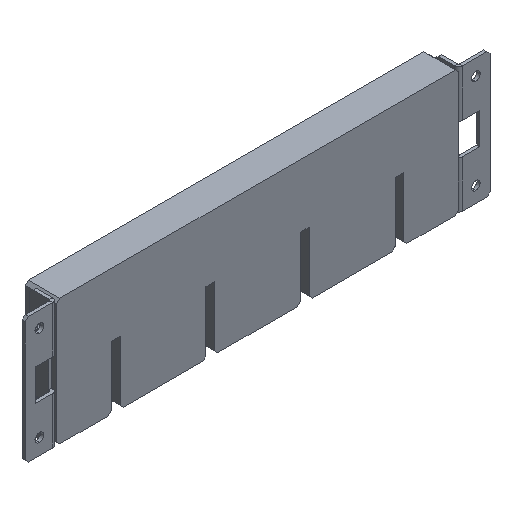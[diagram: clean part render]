
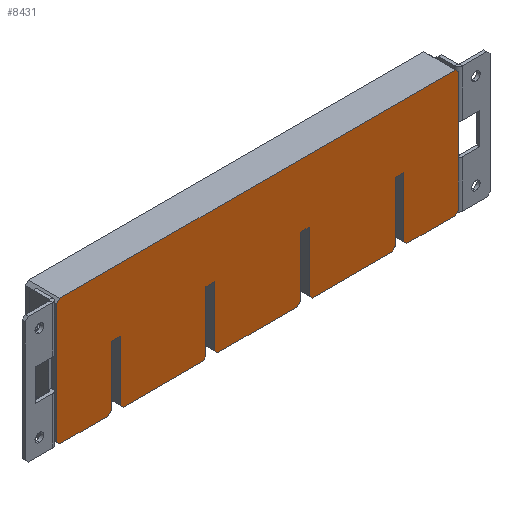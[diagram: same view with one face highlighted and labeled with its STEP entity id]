
A CAD part, isometric view. The second image highlights one B-rep face of the part: STEP entity #8431.
In plain terms, the highlighted planar face has unit normal (0, -1, 0) as drawn and (0, 0, -1) by its records, which use the part's own axes.
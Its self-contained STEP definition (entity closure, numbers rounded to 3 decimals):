
#5896=CARTESIAN_POINT(' ',(-127.5,38.,-10.));
#5897=VERTEX_POINT(' ',#5896);
#5911=CARTESIAN_POINT(' ',(-127.5,38.,-10.));
#5916=DIRECTION(' ',(0.,-1.,0.));
#5921=VECTOR(' ',#5916,1.);
#5926=LINE('',#5911,#5921);
#5931=CARTESIAN_POINT(' ',(-127.5,-38.,-10.));
#5932=VERTEX_POINT(' ',#5931);
#5936=EDGE_CURVE(' ',#5897,#5932,#5926,.T.);
#7276=CARTESIAN_POINT(' ',(-125.5,40.,-10.));
#7277=VERTEX_POINT(' ',#7276);
#7291=CARTESIAN_POINT(' ',(-127.5,38.,-10.));
#7296=DIRECTION(' ',(0.707,0.707,0.));
#7301=VECTOR(' ',#7296,1.);
#7306=LINE('',#7291,#7301);
#7311=EDGE_CURVE(' ',#5897,#7277,#7306,.T.);
#7341=DIRECTION(' ',(0.,-0.,-1.));
#7346=CARTESIAN_POINT(' ',(-127.5,-40.,-10.));
#7351=DIRECTION(' ',(0.,1.,-0.));
#7356=AXIS2_PLACEMENT_3D(' ',#7346,#7341,#7351);
#7361=PLANE('NONE',#7356);
#7366=CARTESIAN_POINT(' ',(-25.25,-40.,-10.));
#7371=DIRECTION(' ',(-0.707,0.707,0.));
#7376=VECTOR(' ',#7371,1.);
#7381=LINE('',#7366,#7376);
#7386=CARTESIAN_POINT(' ',(-25.25,-40.,-10.));
#7387=VERTEX_POINT(' ',#7386);
#7391=CARTESIAN_POINT(' ',(-27.25,-38.,-10.));
#7392=VERTEX_POINT(' ',#7391);
#7396=EDGE_CURVE(' ',#7387,#7392,#7381,.T.);
#7401=ORIENTED_EDGE(' ',*,*,#7396,.T.);
#7406=CARTESIAN_POINT(' ',(-27.25,0.,-10.));
#7411=DIRECTION(' ',(0.,-1.,0.));
#7416=VECTOR(' ',#7411,1.);
#7421=LINE('',#7406,#7416);
#7426=CARTESIAN_POINT(' ',(-27.25,0.,-10.));
#7427=VERTEX_POINT(' ',#7426);
#7431=EDGE_CURVE(' ',#7427,#7392,#7421,.T.);
#7436=ORIENTED_EDGE(' ',*,*,#7431,.F.);
#7441=CARTESIAN_POINT(' ',(-27.25,0.,-10.));
#7446=DIRECTION(' ',(-1.,0.,0.));
#7451=VECTOR(' ',#7446,1.);
#7456=LINE('',#7441,#7451);
#7461=CARTESIAN_POINT(' ',(-32.75,0.,-10.));
#7462=VERTEX_POINT(' ',#7461);
#7466=EDGE_CURVE(' ',#7427,#7462,#7456,.T.);
#7471=ORIENTED_EDGE(' ',*,*,#7466,.T.);
#7476=CARTESIAN_POINT(' ',(-32.75,-38.,-10.));
#7481=DIRECTION(' ',(0.,1.,0.));
#7486=VECTOR(' ',#7481,1.);
#7491=LINE('',#7476,#7486);
#7496=CARTESIAN_POINT(' ',(-32.75,-38.,-10.));
#7497=VERTEX_POINT(' ',#7496);
#7501=EDGE_CURVE(' ',#7497,#7462,#7491,.T.);
#7506=ORIENTED_EDGE(' ',*,*,#7501,.F.);
#7511=CARTESIAN_POINT(' ',(-32.75,-38.,-10.));
#7516=DIRECTION(' ',(-0.707,-0.707,0.));
#7521=VECTOR(' ',#7516,1.);
#7526=LINE('',#7511,#7521);
#7531=CARTESIAN_POINT(' ',(-34.75,-40.,-10.));
#7532=VERTEX_POINT(' ',#7531);
#7536=EDGE_CURVE(' ',#7497,#7532,#7526,.T.);
#7541=ORIENTED_EDGE(' ',*,*,#7536,.T.);
#7546=CARTESIAN_POINT(' ',(-85.25,-40.,-10.));
#7551=DIRECTION(' ',(1.,0.,0.));
#7556=VECTOR(' ',#7551,1.);
#7561=LINE('',#7546,#7556);
#7566=CARTESIAN_POINT(' ',(-85.25,-40.,-10.));
#7567=VERTEX_POINT(' ',#7566);
#7571=EDGE_CURVE(' ',#7567,#7532,#7561,.T.);
#7576=ORIENTED_EDGE(' ',*,*,#7571,.F.);
#7581=CARTESIAN_POINT(' ',(-85.25,-40.,-10.));
#7586=DIRECTION(' ',(-0.707,0.707,0.));
#7591=VECTOR(' ',#7586,1.);
#7596=LINE('',#7581,#7591);
#7601=CARTESIAN_POINT(' ',(-87.25,-38.,-10.));
#7602=VERTEX_POINT(' ',#7601);
#7606=EDGE_CURVE(' ',#7567,#7602,#7596,.T.);
#7611=ORIENTED_EDGE(' ',*,*,#7606,.T.);
#7616=CARTESIAN_POINT(' ',(-87.25,0.,-10.));
#7621=DIRECTION(' ',(0.,-1.,0.));
#7626=VECTOR(' ',#7621,1.);
#7631=LINE('',#7616,#7626);
#7636=CARTESIAN_POINT(' ',(-87.25,0.,-10.));
#7637=VERTEX_POINT(' ',#7636);
#7641=EDGE_CURVE(' ',#7637,#7602,#7631,.T.);
#7646=ORIENTED_EDGE(' ',*,*,#7641,.F.);
#7651=CARTESIAN_POINT(' ',(-87.25,0.,-10.));
#7656=DIRECTION(' ',(-1.,0.,0.));
#7661=VECTOR(' ',#7656,1.);
#7666=LINE('',#7651,#7661);
#7671=CARTESIAN_POINT(' ',(-92.75,0.,-10.));
#7672=VERTEX_POINT(' ',#7671);
#7676=EDGE_CURVE(' ',#7637,#7672,#7666,.T.);
#7681=ORIENTED_EDGE(' ',*,*,#7676,.T.);
#7686=CARTESIAN_POINT(' ',(-92.75,-38.,-10.));
#7691=DIRECTION(' ',(0.,1.,0.));
#7696=VECTOR(' ',#7691,1.);
#7701=LINE('',#7686,#7696);
#7706=CARTESIAN_POINT(' ',(-92.75,-38.,-10.));
#7707=VERTEX_POINT(' ',#7706);
#7711=EDGE_CURVE(' ',#7707,#7672,#7701,.T.);
#7716=ORIENTED_EDGE(' ',*,*,#7711,.F.);
#7721=CARTESIAN_POINT(' ',(-92.75,-38.,-10.));
#7726=DIRECTION(' ',(-0.707,-0.707,0.));
#7731=VECTOR(' ',#7726,1.);
#7736=LINE('',#7721,#7731);
#7741=CARTESIAN_POINT(' ',(-94.75,-40.,-10.));
#7742=VERTEX_POINT(' ',#7741);
#7746=EDGE_CURVE(' ',#7707,#7742,#7736,.T.);
#7751=ORIENTED_EDGE(' ',*,*,#7746,.T.);
#7756=CARTESIAN_POINT(' ',(-125.5,-40.,-10.));
#7761=DIRECTION(' ',(1.,0.,0.));
#7766=VECTOR(' ',#7761,1.);
#7771=LINE('',#7756,#7766);
#7776=CARTESIAN_POINT(' ',(-125.5,-40.,-10.));
#7777=VERTEX_POINT(' ',#7776);
#7781=EDGE_CURVE(' ',#7777,#7742,#7771,.T.);
#7786=ORIENTED_EDGE(' ',*,*,#7781,.F.);
#7791=CARTESIAN_POINT(' ',(-125.5,-40.,-10.));
#7796=DIRECTION(' ',(-0.707,0.707,0.));
#7801=VECTOR(' ',#7796,1.);
#7806=LINE('',#7791,#7801);
#7811=EDGE_CURVE(' ',#7777,#5932,#7806,.T.);
#7816=ORIENTED_EDGE(' ',*,*,#7811,.T.);
#7821=ORIENTED_EDGE(' ',*,*,#5936,.F.);
#7826=ORIENTED_EDGE(' ',*,*,#7311,.T.);
#7831=CARTESIAN_POINT(' ',(-125.5,40.,-10.));
#7836=DIRECTION(' ',(1.,0.,0.));
#7841=VECTOR(' ',#7836,1.);
#7846=LINE('',#7831,#7841);
#7851=CARTESIAN_POINT(' ',(125.5,40.,-10.));
#7852=VERTEX_POINT(' ',#7851);
#7856=EDGE_CURVE(' ',#7277,#7852,#7846,.T.);
#7861=ORIENTED_EDGE(' ',*,*,#7856,.T.);
#7866=CARTESIAN_POINT(' ',(125.5,40.,-10.));
#7871=DIRECTION(' ',(0.707,-0.707,0.));
#7876=VECTOR(' ',#7871,1.);
#7881=LINE('',#7866,#7876);
#7886=CARTESIAN_POINT(' ',(127.5,38.,-10.));
#7887=VERTEX_POINT(' ',#7886);
#7891=EDGE_CURVE(' ',#7852,#7887,#7881,.T.);
#7896=ORIENTED_EDGE(' ',*,*,#7891,.T.);
#7901=CARTESIAN_POINT(' ',(127.5,38.,-10.));
#7906=DIRECTION(' ',(0.,-1.,0.));
#7911=VECTOR(' ',#7906,1.);
#7916=LINE('',#7901,#7911);
#7921=CARTESIAN_POINT(' ',(127.5,-38.,-10.));
#7922=VERTEX_POINT(' ',#7921);
#7926=EDGE_CURVE(' ',#7887,#7922,#7916,.T.);
#7931=ORIENTED_EDGE(' ',*,*,#7926,.T.);
#7936=CARTESIAN_POINT(' ',(127.5,-38.,-10.));
#7941=DIRECTION(' ',(-0.707,-0.707,0.));
#7946=VECTOR(' ',#7941,1.);
#7951=LINE('',#7936,#7946);
#7956=CARTESIAN_POINT(' ',(125.5,-40.,-10.));
#7957=VERTEX_POINT(' ',#7956);
#7961=EDGE_CURVE(' ',#7922,#7957,#7951,.T.);
#7966=ORIENTED_EDGE(' ',*,*,#7961,.T.);
#7971=CARTESIAN_POINT(' ',(94.75,-40.,-10.));
#7976=DIRECTION(' ',(1.,0.,0.));
#7981=VECTOR(' ',#7976,1.);
#7986=LINE('',#7971,#7981);
#7991=CARTESIAN_POINT(' ',(94.75,-40.,-10.));
#7992=VERTEX_POINT(' ',#7991);
#7996=EDGE_CURVE(' ',#7992,#7957,#7986,.T.);
#8001=ORIENTED_EDGE(' ',*,*,#7996,.F.);
#8006=CARTESIAN_POINT(' ',(94.75,-40.,-10.));
#8011=DIRECTION(' ',(-0.707,0.707,0.));
#8016=VECTOR(' ',#8011,1.);
#8021=LINE('',#8006,#8016);
#8026=CARTESIAN_POINT(' ',(92.75,-38.,-10.));
#8027=VERTEX_POINT(' ',#8026);
#8031=EDGE_CURVE(' ',#7992,#8027,#8021,.T.);
#8036=ORIENTED_EDGE(' ',*,*,#8031,.T.);
#8041=CARTESIAN_POINT(' ',(92.75,0.,-10.));
#8046=DIRECTION(' ',(0.,-1.,0.));
#8051=VECTOR(' ',#8046,1.);
#8056=LINE('',#8041,#8051);
#8061=CARTESIAN_POINT(' ',(92.75,0.,-10.));
#8062=VERTEX_POINT(' ',#8061);
#8066=EDGE_CURVE(' ',#8062,#8027,#8056,.T.);
#8071=ORIENTED_EDGE(' ',*,*,#8066,.F.);
#8076=CARTESIAN_POINT(' ',(92.75,0.,-10.));
#8081=DIRECTION(' ',(-1.,0.,0.));
#8086=VECTOR(' ',#8081,1.);
#8091=LINE('',#8076,#8086);
#8096=CARTESIAN_POINT(' ',(87.25,0.,-10.));
#8097=VERTEX_POINT(' ',#8096);
#8101=EDGE_CURVE(' ',#8062,#8097,#8091,.T.);
#8106=ORIENTED_EDGE(' ',*,*,#8101,.T.);
#8111=CARTESIAN_POINT(' ',(87.25,-38.,-10.));
#8116=DIRECTION(' ',(0.,1.,0.));
#8121=VECTOR(' ',#8116,1.);
#8126=LINE('',#8111,#8121);
#8131=CARTESIAN_POINT(' ',(87.25,-38.,-10.));
#8132=VERTEX_POINT(' ',#8131);
#8136=EDGE_CURVE(' ',#8132,#8097,#8126,.T.);
#8141=ORIENTED_EDGE(' ',*,*,#8136,.F.);
#8146=CARTESIAN_POINT(' ',(87.25,-38.,-10.));
#8151=DIRECTION(' ',(-0.707,-0.707,0.));
#8156=VECTOR(' ',#8151,1.);
#8161=LINE('',#8146,#8156);
#8166=CARTESIAN_POINT(' ',(85.25,-40.,-10.));
#8167=VERTEX_POINT(' ',#8166);
#8171=EDGE_CURVE(' ',#8132,#8167,#8161,.T.);
#8176=ORIENTED_EDGE(' ',*,*,#8171,.T.);
#8181=CARTESIAN_POINT(' ',(34.75,-40.,-10.));
#8186=DIRECTION(' ',(1.,0.,0.));
#8191=VECTOR(' ',#8186,1.);
#8196=LINE('',#8181,#8191);
#8201=CARTESIAN_POINT(' ',(34.75,-40.,-10.));
#8202=VERTEX_POINT(' ',#8201);
#8206=EDGE_CURVE(' ',#8202,#8167,#8196,.T.);
#8211=ORIENTED_EDGE(' ',*,*,#8206,.F.);
#8216=CARTESIAN_POINT(' ',(34.75,-40.,-10.));
#8221=DIRECTION(' ',(-0.707,0.707,0.));
#8226=VECTOR(' ',#8221,1.);
#8231=LINE('',#8216,#8226);
#8236=CARTESIAN_POINT(' ',(32.75,-38.,-10.));
#8237=VERTEX_POINT(' ',#8236);
#8241=EDGE_CURVE(' ',#8202,#8237,#8231,.T.);
#8246=ORIENTED_EDGE(' ',*,*,#8241,.T.);
#8251=CARTESIAN_POINT(' ',(32.75,0.,-10.));
#8256=DIRECTION(' ',(0.,-1.,0.));
#8261=VECTOR(' ',#8256,1.);
#8266=LINE('',#8251,#8261);
#8271=CARTESIAN_POINT(' ',(32.75,0.,-10.));
#8272=VERTEX_POINT(' ',#8271);
#8276=EDGE_CURVE(' ',#8272,#8237,#8266,.T.);
#8281=ORIENTED_EDGE(' ',*,*,#8276,.F.);
#8286=CARTESIAN_POINT(' ',(32.75,0.,-10.));
#8291=DIRECTION(' ',(-1.,0.,0.));
#8296=VECTOR(' ',#8291,1.);
#8301=LINE('',#8286,#8296);
#8306=CARTESIAN_POINT(' ',(27.25,0.,-10.));
#8307=VERTEX_POINT(' ',#8306);
#8311=EDGE_CURVE(' ',#8272,#8307,#8301,.T.);
#8316=ORIENTED_EDGE(' ',*,*,#8311,.T.);
#8321=CARTESIAN_POINT(' ',(27.25,-38.,-10.));
#8326=DIRECTION(' ',(0.,1.,0.));
#8331=VECTOR(' ',#8326,1.);
#8336=LINE('',#8321,#8331);
#8341=CARTESIAN_POINT(' ',(27.25,-38.,-10.));
#8342=VERTEX_POINT(' ',#8341);
#8346=EDGE_CURVE(' ',#8342,#8307,#8336,.T.);
#8351=ORIENTED_EDGE(' ',*,*,#8346,.F.);
#8356=CARTESIAN_POINT(' ',(27.25,-38.,-10.));
#8361=DIRECTION(' ',(-0.707,-0.707,0.));
#8366=VECTOR(' ',#8361,1.);
#8371=LINE('',#8356,#8366);
#8376=CARTESIAN_POINT(' ',(25.25,-40.,-10.));
#8377=VERTEX_POINT(' ',#8376);
#8381=EDGE_CURVE(' ',#8342,#8377,#8371,.T.);
#8386=ORIENTED_EDGE(' ',*,*,#8381,.T.);
#8391=CARTESIAN_POINT(' ',(-25.25,-40.,-10.));
#8396=DIRECTION(' ',(1.,0.,0.));
#8401=VECTOR(' ',#8396,1.);
#8406=LINE('',#8391,#8401);
#8411=EDGE_CURVE(' ',#7387,#8377,#8406,.T.);
#8416=ORIENTED_EDGE(' ',*,*,#8411,.F.);
#8421=EDGE_LOOP(' ',(#7401,#7436,#7471,#7506,#7541,#7576,#7611,#7646,#7681,#7716,#7751,#7786,#7816,#7821,#7826,#7861,#7896,#7931,#7966,#8001,#8036,#8071,#8106,#8141,#8176,#8211,#8246,#8281,#8316,#8351,#8386,#8416));
#8426=FACE_OUTER_BOUND(' ',#8421,.T.);
#8431=ADVANCED_FACE('NONE',(#8426),#7361,.T.);
